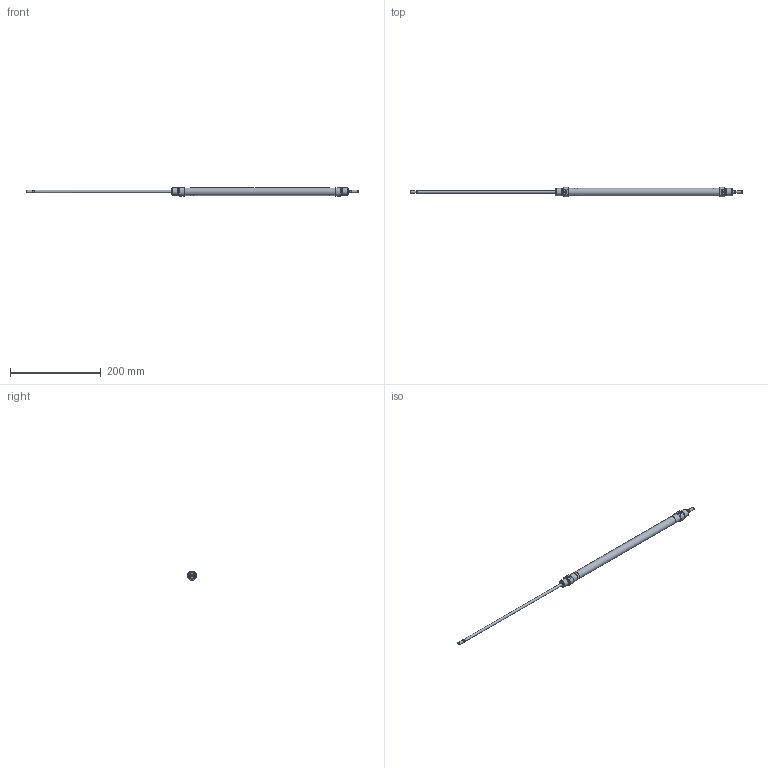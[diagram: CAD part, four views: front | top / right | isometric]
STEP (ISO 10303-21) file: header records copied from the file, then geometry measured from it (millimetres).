
FILE_DESCRIPTION( ( 'STEP AP203' ), '1' );
FILE_NAME( '//expscmdclustefs.cadenas.external/client_exchange/iodir/jobs/output/wkb68411974_no0/STEP/M101-016-0300--__0__2_03.stp', ' ', ( ' ' ), ( ' ' ), 'PSStep 15.0.47', 'PARTsolutions', ' ' );
FILE_SCHEMA( ( 'CONFIG_CONTROL_DESIGN' ) );
Length unit declared in the file: millimetre
Products named in the file (3): M101-016-0300-- [0]; HI_M101-016-0300---[0]-z; HI_M101-016-0300---[0]-k
Assembly tree (2 placements, depth 2):
  M101-016-0300-- [0]
    HI_M101-016-0300---[0]-z
    HI_M101-016-0300---[0]-k
Bounding box: 732 x 20.94 x 19.09 mm (x, y, z)
Volume: 49920.1 mm3; surface area: 53890.5 mm2
Topology: 2 solids, 2 shells, 67 faces, 135 edges, 82 vertices
Faces by surface type: plane 28, cylinder 23, cone 14, torus 2
Full cylindrical faces by diameter (mm): 4.134 x2, 4.773 x2, 6 x6, 14.16 x4, 16 x6, 17.3 x1
Entity records: 1730 total; most frequent: CARTESIAN_POINT 334, DIRECTION 292, ORIENTED_EDGE 196, AXIS2_PLACEMENT_3D 132, EDGE_LOOP 116, EDGE_CURVE 98, FACE_OUTER_BOUND 90, VERTEX_POINT 78
